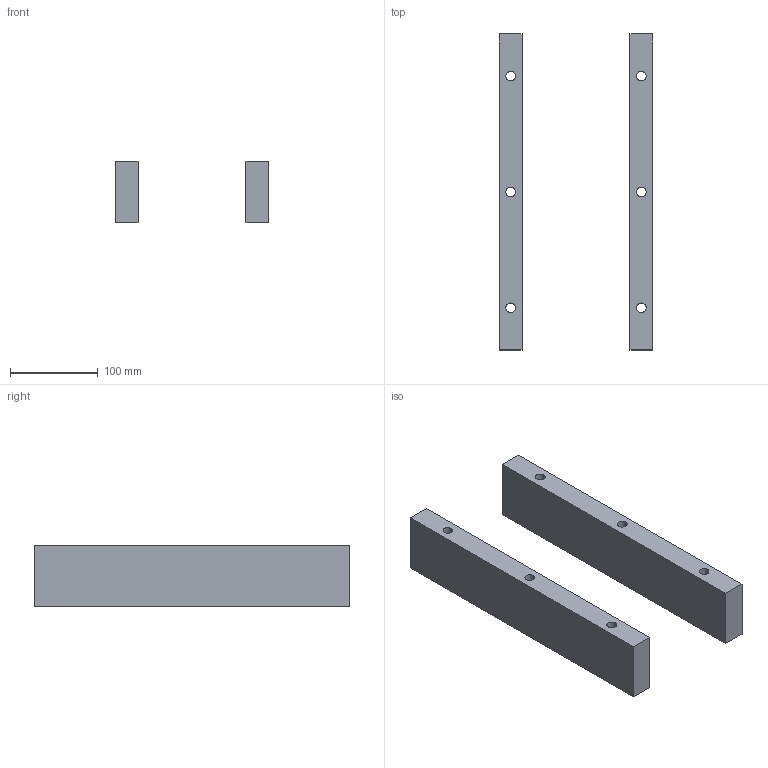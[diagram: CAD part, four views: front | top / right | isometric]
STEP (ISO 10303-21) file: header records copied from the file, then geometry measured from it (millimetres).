
FILE_DESCRIPTION (( 'STEP AP214' ), '1' );
FILE_NAME ('ESP-175x360x26.STEP', '2020-11-02T14:32:44', ( '' ), ( '' ), 'SwSTEP 2.0', 'SolidWorks 2018', '' );
FILE_SCHEMA (( 'AUTOMOTIVE_DESIGN' ));
Length unit declared in the file: millimetre
Products named in the file (1): ESP-175x360x26
Bounding box: 175 x 360 x 70 mm (x, y, z)
Volume: 1270486.1 mm3; surface area: 158893.8 mm2
Topology: 2 solids, 2 shells, 24 faces, 60 edges, 40 vertices
Faces by surface type: cylinder 12, plane 12
Entity records: 795 total; most frequent: DIRECTION 134, CARTESIAN_POINT 125, ORIENTED_EDGE 120, EDGE_CURVE 60, AXIS2_PLACEMENT_3D 49, VERTEX_POINT 40, EDGE_LOOP 36, LINE 36
